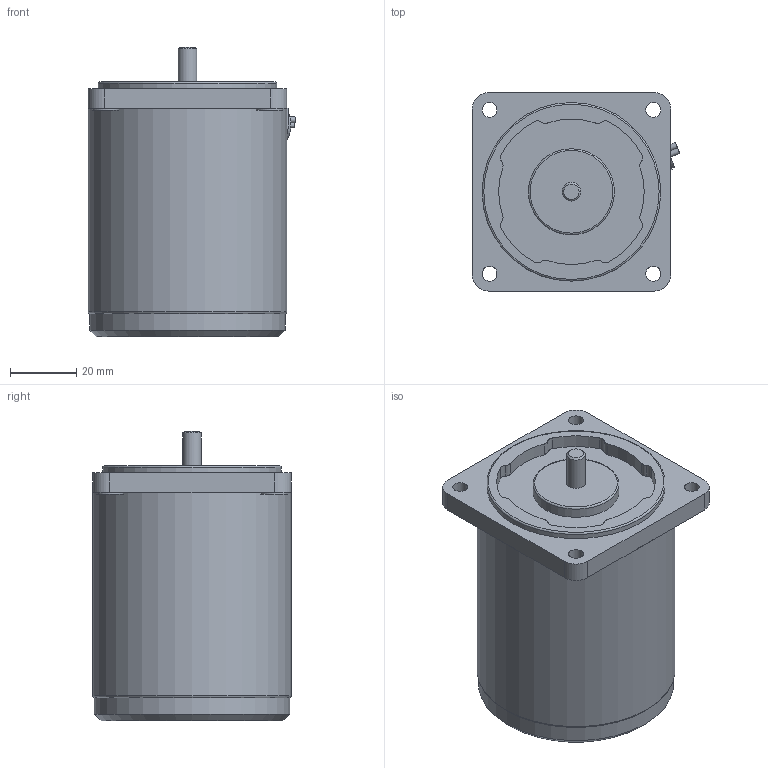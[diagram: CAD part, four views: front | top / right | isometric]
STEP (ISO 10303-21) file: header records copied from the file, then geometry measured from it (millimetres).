
FILE_DESCRIPTION((''),'2;1');
FILE_NAME('E:\2공장-도면\3D\표준형 3D(민규)\step file\K6IG6Nㅁ.stp','2014-11-11T17:18:19',('AHN'),(''),'Autodesk Inventor 2012','Autodesk Inventor 2012','');
FILE_SCHEMA(('CONFIG_CONTROL_DESIGN'));
Length unit declared in the file: millimetre
Products named in the file (1): K6IG6Nㅁ
Bounding box: 62.76 x 60 x 87.5 mm (x, y, z)
Volume: 215419.7 mm3; surface area: 22987.8 mm2
Topology: 1 solids, 1 shells, 82 faces, 192 edges, 118 vertices
Faces by surface type: cylinder 49, plane 28, torus 3, cone 2
Full cylindrical faces by diameter (mm): 4.5 x4, 5.64 x1, 8 x4, 10 x1, 26 x1, 54 x1, 59 x1, 60 x1
Entity records: 2314 total; most frequent: DIRECTION 442, CARTESIAN_POINT 387, ORIENTED_EDGE 344, AXIS2_PLACEMENT_3D 188, EDGE_CURVE 172, EDGE_LOOP 117, VERTEX_POINT 115, CIRCLE 105
